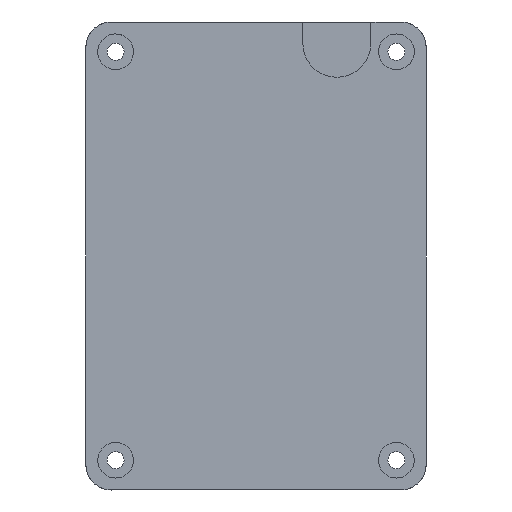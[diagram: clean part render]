
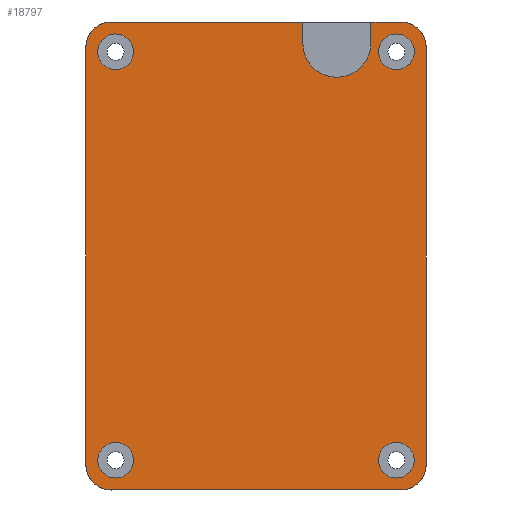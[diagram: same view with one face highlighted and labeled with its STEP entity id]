
A CAD part, front view. The second image highlights one B-rep face of the part: STEP entity #18797.
In plain terms, the highlighted planar face has unit normal (0, -1, 0).
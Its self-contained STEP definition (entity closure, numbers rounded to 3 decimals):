
#5121=CARTESIAN_POINT('',(-20.,0.,24.5));
#5479=CARTESIAN_POINT('',(9.5,0.,25.));
#5480=DIRECTION('',(0.,-1.,0.));
#5481=DIRECTION('',(-1.,0.,0.));
#5482=AXIS2_PLACEMENT_3D('',#5479,#5480,#5481);
#5484=DIRECTION('',(0.,0.,1.));
#5485=VECTOR('',#5484,2.5);
#5486=CARTESIAN_POINT('',(13.5,0.,25.));
#5487=LINE('',#5486,#5485);
#5488=DIRECTION('',(1.,0.,0.));
#5489=VECTOR('',#5488,3.5);
#5490=CARTESIAN_POINT('',(13.5,0.,27.5));
#5491=LINE('',#5490,#5489);
#5492=CARTESIAN_POINT('',(17.,0.,24.5));
#5493=DIRECTION('',(0.,1.,0.));
#5494=DIRECTION('',(0.,0.,1.));
#5495=AXIS2_PLACEMENT_3D('',#5492,#5493,#5494);
#5497=DIRECTION('',(0.,0.,-1.));
#5498=VECTOR('',#5497,49.);
#5499=CARTESIAN_POINT('',(20.,0.,24.5));
#5500=LINE('',#5499,#5498);
#5501=CARTESIAN_POINT('',(17.,0.,-24.5));
#5502=DIRECTION('',(0.,1.,0.));
#5503=DIRECTION('',(1.,0.,0.));
#5504=AXIS2_PLACEMENT_3D('',#5501,#5502,#5503);
#5506=DIRECTION('',(-1.,0.,0.));
#5507=VECTOR('',#5506,34.);
#5508=CARTESIAN_POINT('',(17.,0.,-27.5));
#5509=LINE('',#5508,#5507);
#5510=CARTESIAN_POINT('',(-17.,0.,-24.5));
#5511=DIRECTION('',(0.,1.,0.));
#5512=DIRECTION('',(0.,0.,-1.));
#5513=AXIS2_PLACEMENT_3D('',#5510,#5511,#5512);
#5515=DIRECTION('',(0.,0.,1.));
#5516=VECTOR('',#5515,49.);
#5517=CARTESIAN_POINT('',(-20.,0.,-24.5));
#5518=LINE('',#5517,#5516);
#5519=CARTESIAN_POINT('',(-17.,0.,24.5));
#5520=DIRECTION('',(0.,1.,0.));
#5521=DIRECTION('',(-1.,0.,0.));
#5522=AXIS2_PLACEMENT_3D('',#5519,#5520,#5521);
#5524=DIRECTION('',(1.,0.,0.));
#5525=VECTOR('',#5524,22.5);
#5526=CARTESIAN_POINT('',(-17.,0.,27.5));
#5527=LINE('',#5526,#5525);
#5528=CARTESIAN_POINT('',(16.5,0.,-24.));
#5529=DIRECTION('',(0.,-1.,0.));
#5530=DIRECTION('',(0.,0.,-1.));
#5531=AXIS2_PLACEMENT_3D('',#5528,#5529,#5530);
#5533=CARTESIAN_POINT('',(16.5,0.,-24.));
#5534=DIRECTION('',(0.,-1.,0.));
#5535=DIRECTION('',(0.,0.,1.));
#5536=AXIS2_PLACEMENT_3D('',#5533,#5534,#5535);
#5538=CARTESIAN_POINT('',(-16.5,0.,-24.));
#5539=DIRECTION('',(0.,-1.,0.));
#5540=DIRECTION('',(0.,0.,-1.));
#5541=AXIS2_PLACEMENT_3D('',#5538,#5539,#5540);
#5543=CARTESIAN_POINT('',(-16.5,0.,-24.));
#5544=DIRECTION('',(0.,-1.,0.));
#5545=DIRECTION('',(0.,0.,1.));
#5546=AXIS2_PLACEMENT_3D('',#5543,#5544,#5545);
#5548=CARTESIAN_POINT('',(-16.5,0.,24.));
#5549=DIRECTION('',(0.,-1.,0.));
#5550=DIRECTION('',(0.,0.,-1.));
#5551=AXIS2_PLACEMENT_3D('',#5548,#5549,#5550);
#5553=CARTESIAN_POINT('',(-16.5,0.,24.));
#5554=DIRECTION('',(0.,-1.,0.));
#5555=DIRECTION('',(0.,0.,1.));
#5556=AXIS2_PLACEMENT_3D('',#5553,#5554,#5555);
#5558=CARTESIAN_POINT('',(16.504,0.,24.));
#5559=DIRECTION('',(0.,-1.,0.));
#5560=DIRECTION('',(0.,0.,-1.));
#5561=AXIS2_PLACEMENT_3D('',#5558,#5559,#5560);
#5563=CARTESIAN_POINT('',(16.504,0.,24.));
#5564=DIRECTION('',(0.,-1.,0.));
#5565=DIRECTION('',(0.,0.,1.));
#5566=AXIS2_PLACEMENT_3D('',#5563,#5564,#5565);
#6964=DIRECTION('',(0.,0.,1.));
#6965=VECTOR('',#6964,2.5);
#6966=CARTESIAN_POINT('',(5.5,0.,25.));
#6967=LINE('',#6966,#6965);
#10382=VERTEX_POINT('',#5121);
#10383=CARTESIAN_POINT('',(-20.,0.,-24.5));
#10384=VERTEX_POINT('',#10383);
#10424=CARTESIAN_POINT('',(-17.,0.,27.5));
#10425=VERTEX_POINT('',#10424);
#10430=CARTESIAN_POINT('',(5.5,0.,27.5));
#10431=VERTEX_POINT('',#10430);
#10546=CARTESIAN_POINT('',(17.,0.,27.5));
#10547=VERTEX_POINT('',#10546);
#10548=CARTESIAN_POINT('',(13.5,0.,27.5));
#10549=VERTEX_POINT('',#10548);
#10554=CARTESIAN_POINT('',(13.5,0.,25.));
#10555=VERTEX_POINT('',#10554);
#10556=CARTESIAN_POINT('',(20.,0.,24.5));
#10557=VERTEX_POINT('',#10556);
#10558=CARTESIAN_POINT('',(20.,0.,-24.5));
#10559=VERTEX_POINT('',#10558);
#10560=CARTESIAN_POINT('',(17.,0.,-27.5));
#10561=VERTEX_POINT('',#10560);
#10562=CARTESIAN_POINT('',(-17.,0.,-27.5));
#10563=VERTEX_POINT('',#10562);
#10564=CARTESIAN_POINT('',(5.5,0.,25.));
#10565=VERTEX_POINT('',#10564);
#10566=CARTESIAN_POINT('',(16.5,0.,-26.1));
#10567=CARTESIAN_POINT('',(16.5,0.,-21.9));
#10568=VERTEX_POINT('',#10566);
#10569=VERTEX_POINT('',#10567);
#10570=CARTESIAN_POINT('',(-16.5,0.,-26.1));
#10571=CARTESIAN_POINT('',(-16.5,0.,-21.9));
#10572=VERTEX_POINT('',#10570);
#10573=VERTEX_POINT('',#10571);
#10574=CARTESIAN_POINT('',(-16.5,0.,21.9));
#10575=CARTESIAN_POINT('',(-16.5,0.,26.1));
#10576=VERTEX_POINT('',#10574);
#10577=VERTEX_POINT('',#10575);
#10578=CARTESIAN_POINT('',(16.504,0.,21.9));
#10579=CARTESIAN_POINT('',(16.504,0.,26.1));
#10580=VERTEX_POINT('',#10578);
#10581=VERTEX_POINT('',#10579);
#18748=CARTESIAN_POINT('',(0.,0.,0.));
#18749=DIRECTION('',(0.,1.,0.));
#18750=DIRECTION('',(1.,0.,0.));
#18751=AXIS2_PLACEMENT_3D('',#18748,#18749,#18750);
#18752=PLANE('',#18751);
#18753=ORIENTED_EDGE('',*,*,#18728,.T.);
#18754=ORIENTED_EDGE('',*,*,#18740,.T.);
#18755=ORIENTED_EDGE('',*,*,#18698,.T.);
#18757=ORIENTED_EDGE('',*,*,#18756,.T.);
#18759=ORIENTED_EDGE('',*,*,#18758,.T.);
#18761=ORIENTED_EDGE('',*,*,#18760,.T.);
#18763=ORIENTED_EDGE('',*,*,#18762,.T.);
#18765=ORIENTED_EDGE('',*,*,#18764,.T.);
#18766=ORIENTED_EDGE('',*,*,#18423,.T.);
#18767=ORIENTED_EDGE('',*,*,#18532,.T.);
#18768=ORIENTED_EDGE('',*,*,#18548,.T.);
#18770=ORIENTED_EDGE('',*,*,#18769,.F.);
#18771=EDGE_LOOP('',(#18753,#18754,#18755,#18757,#18759,#18761,#18763,#18765,
#18766,#18767,#18768,#18770));
#18772=FACE_OUTER_BOUND('',#18771,.F.);
#18774=ORIENTED_EDGE('',*,*,#18773,.T.);
#18776=ORIENTED_EDGE('',*,*,#18775,.T.);
#18777=EDGE_LOOP('',(#18774,#18776));
#18778=FACE_BOUND('',#18777,.F.);
#18780=ORIENTED_EDGE('',*,*,#18779,.T.);
#18782=ORIENTED_EDGE('',*,*,#18781,.T.);
#18783=EDGE_LOOP('',(#18780,#18782));
#18784=FACE_BOUND('',#18783,.F.);
#18786=ORIENTED_EDGE('',*,*,#18785,.T.);
#18788=ORIENTED_EDGE('',*,*,#18787,.T.);
#18789=EDGE_LOOP('',(#18786,#18788));
#18790=FACE_BOUND('',#18789,.F.);
#18792=ORIENTED_EDGE('',*,*,#18791,.T.);
#18794=ORIENTED_EDGE('',*,*,#18793,.T.);
#18795=EDGE_LOOP('',(#18792,#18794));
#18796=FACE_BOUND('',#18795,.F.);
#18797=ADVANCED_FACE('',(#18772,#18778,#18784,#18790,#18796),#18752,.F.);
#5483=CIRCLE('',#5482,4.);
#5496=CIRCLE('',#5495,3.);
#5505=CIRCLE('',#5504,3.);
#5514=CIRCLE('',#5513,3.);
#5523=CIRCLE('',#5522,3.);
#5532=CIRCLE('',#5531,2.1);
#5537=CIRCLE('',#5536,2.1);
#5542=CIRCLE('',#5541,2.1);
#5547=CIRCLE('',#5546,2.1);
#5552=CIRCLE('',#5551,2.1);
#5557=CIRCLE('',#5556,2.1);
#5562=CIRCLE('',#5561,2.1);
#5567=CIRCLE('',#5566,2.1);
#18423=EDGE_CURVE('',#10384,#10382,#5518,.T.);
#18532=EDGE_CURVE('',#10382,#10425,#5523,.T.);
#18548=EDGE_CURVE('',#10425,#10431,#5527,.T.);
#18698=EDGE_CURVE('',#10549,#10547,#5491,.T.);
#18728=EDGE_CURVE('',#10565,#10555,#5483,.T.);
#18740=EDGE_CURVE('',#10555,#10549,#5487,.T.);
#18756=EDGE_CURVE('',#10547,#10557,#5496,.T.);
#18758=EDGE_CURVE('',#10557,#10559,#5500,.T.);
#18760=EDGE_CURVE('',#10559,#10561,#5505,.T.);
#18762=EDGE_CURVE('',#10561,#10563,#5509,.T.);
#18764=EDGE_CURVE('',#10563,#10384,#5514,.T.);
#18769=EDGE_CURVE('',#10565,#10431,#6967,.T.);
#18773=EDGE_CURVE('',#10568,#10569,#5532,.T.);
#18775=EDGE_CURVE('',#10569,#10568,#5537,.T.);
#18779=EDGE_CURVE('',#10572,#10573,#5542,.T.);
#18781=EDGE_CURVE('',#10573,#10572,#5547,.T.);
#18785=EDGE_CURVE('',#10576,#10577,#5552,.T.);
#18787=EDGE_CURVE('',#10577,#10576,#5557,.T.);
#18791=EDGE_CURVE('',#10580,#10581,#5562,.T.);
#18793=EDGE_CURVE('',#10581,#10580,#5567,.T.);
